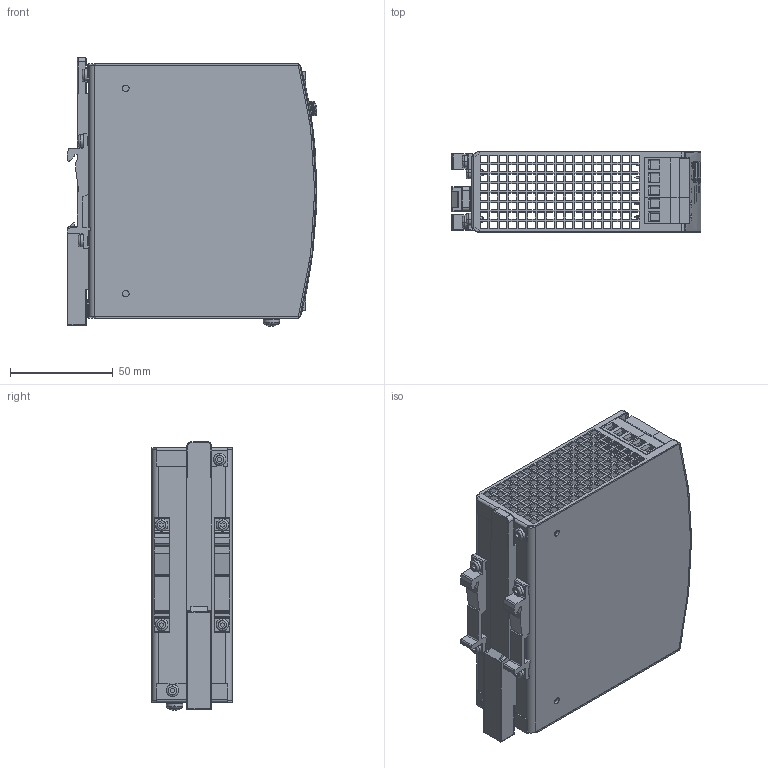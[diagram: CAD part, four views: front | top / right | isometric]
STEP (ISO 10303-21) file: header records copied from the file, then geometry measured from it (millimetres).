
FILE_DESCRIPTION (( 'STEP AP214' ), '1' );
FILE_NAME ('1018092_000_new.STEP', '2025-04-15T07:06:20', ( '' ), ( '' ), 'SwSTEP 2.0', 'SolidWorks 2024', '' );
FILE_SCHEMA (( 'AUTOMOTIVE_DESIGN' ));
Length unit declared in the file: millimetre
Products named in the file (14): 1018357_000_Feat_Config; 1018460_000_BRep_Config; 1018057_000_BRep_Config; 1018092_000_new; 1018344_000_Feat_Config; 1018362_000_BRep_Config; 1018350_000; 1018322_000_Feat_Config; 1018053_000_BRep_Config; 1018360_000_Feat_Config; 1018074_000_BRep_Config; 1015128_000_Feat_Config; 1018355_000_Feat_Config; 1018454_000_BRep_Config
Assembly tree (20 placements, depth 2):
  1018092_000_new
    1018057_000_BRep_Config
    1018053_000_BRep_Config
    1018074_000_BRep_Config
    1018355_000_Feat_Config
    1018360_000_Feat_Config  x6
    1018350_000  x2
    1018357_000_Feat_Config
    1018344_000_Feat_Config
    1018454_000_BRep_Config  x2
    1018460_000_BRep_Config
    1015128_000_Feat_Config
    1018322_000_Feat_Config
    1018362_000_BRep_Config
Bounding box: 121.72 x 39 x 130.77 mm (x, y, z)
Volume: 79922.7 mm3; surface area: 107274.3 mm2
Topology: 21 solids, 21 shells, 2363 faces, 6661 edges, 4420 vertices
Faces by surface type: plane 1887, cylinder 309, bspline 72, cone 43, torus 39, sphere 13
Entity records: 78120 total; most frequent: CARTESIAN_POINT 18014, ORIENTED_EDGE 11896, DIRECTION 10333, EDGE_CURVE 5948, VECTOR 4991, LINE 4991, VERTEX_POINT 3965, EDGE_LOOP 2751
